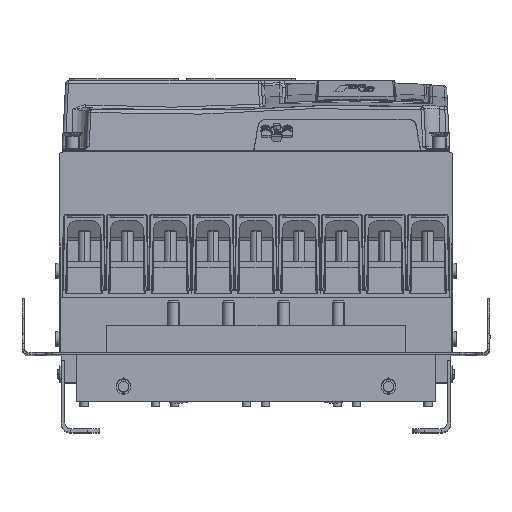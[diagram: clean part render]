
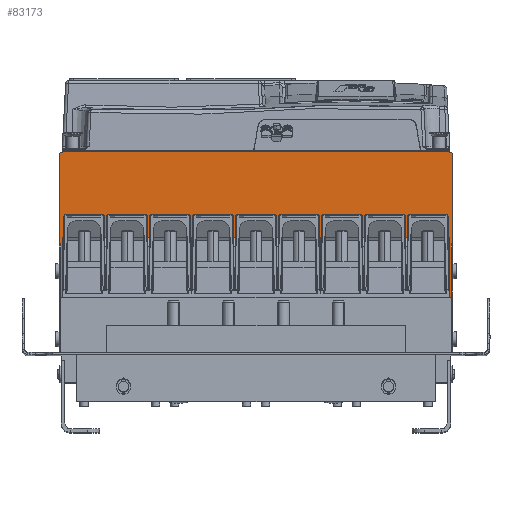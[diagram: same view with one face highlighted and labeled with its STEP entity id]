
A CAD part, top view. The second image highlights one B-rep face of the part: STEP entity #83173.
In plain terms, the highlighted planar face has unit normal (0, 0, 1).
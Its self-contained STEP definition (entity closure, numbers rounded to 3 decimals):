
#217 = VECTOR ( 'NONE', #83060, 1000. ) ;
#505 = LINE ( 'NONE', #99440, #68036 ) ;
#1715 = ORIENTED_EDGE ( 'NONE', *, *, #72236, .F. ) ;
#3507 = LINE ( 'NONE', #101281, #217 ) ;
#4724 = CARTESIAN_POINT ( 'NONE',  ( 165., -77., 453. ) ) ;
#4812 = DIRECTION ( 'NONE',  ( 0., 0., -1. ) ) ;
#10294 = LINE ( 'NONE', #11470, #10388 ) ;
#10388 = VECTOR ( 'NONE', #92756, 1000. ) ;
#10748 = CARTESIAN_POINT ( 'NONE',  ( 165., -3.5, 453. ) ) ;
#11470 = CARTESIAN_POINT ( 'NONE',  ( 163.5, 0., 453. ) ) ;
#13778 = VERTEX_POINT ( 'NONE', #67770 ) ;
#15083 = DIRECTION ( 'NONE',  ( 1., 0., 0. ) ) ;
#15181 = CIRCLE ( 'NONE', #54748, 3.5 ) ;
#15614 = VECTOR ( 'NONE', #15083, 1000. ) ;
#19297 = LINE ( 'NONE', #100583, #19322 ) ;
#19322 = VECTOR ( 'NONE', #108277, 1000. ) ;
#21877 = ORIENTED_EDGE ( 'NONE', *, *, #32257, .T. ) ;
#23498 = ORIENTED_EDGE ( 'NONE', *, *, #97616, .F. ) ;
#25645 = CARTESIAN_POINT ( 'NONE',  ( 0., 0., 453. ) ) ;
#27662 = EDGE_CURVE ( 'NONE', #88387, #114339, #10294, .T. ) ;
#30658 = CARTESIAN_POINT ( 'NONE',  ( -165., -3.5, 453. ) ) ;
#32015 = ORIENTED_EDGE ( 'NONE', *, *, #86972, .T. ) ;
#32019 = AXIS2_PLACEMENT_3D ( 'NONE', #95372, #40631, #76543 ) ;
#32257 = EDGE_CURVE ( 'NONE', #95922, #58013, #72630, .T. ) ;
#32514 = DIRECTION ( 'NONE',  ( 0., 1., 0. ) ) ;
#32798 = LINE ( 'NONE', #25645, #15614 ) ;
#32852 = DIRECTION ( 'NONE',  ( -1., 0., 0. ) ) ;
#35417 = DIRECTION ( 'NONE',  ( 0., 1., 0. ) ) ;
#40631 = DIRECTION ( 'NONE',  ( 0., 0., -1. ) ) ;
#41361 = CARTESIAN_POINT ( 'NONE',  ( 161.5, -3.5, 453. ) ) ;
#41695 = VERTEX_POINT ( 'NONE', #60964 ) ;
#41795 = FACE_OUTER_BOUND ( 'NONE', #110010, .T. ) ;
#44434 = DIRECTION ( 'NONE',  ( 1., 0., 0. ) ) ;
#46284 = EDGE_CURVE ( 'NONE', #110598, #70933, #3507, .T. ) ;
#47638 = EDGE_CURVE ( 'NONE', #110598, #104790, #15181, .T. ) ;
#48794 = CARTESIAN_POINT ( 'NONE',  ( 0., -167.9, 453. ) ) ;
#51561 = CARTESIAN_POINT ( 'NONE',  ( -165.001, -77., 453. ) ) ;
#54288 = VECTOR ( 'NONE', #44434, 1000. ) ;
#54748 = AXIS2_PLACEMENT_3D ( 'NONE', #71920, #66450, #35417 ) ;
#57996 = ORIENTED_EDGE ( 'NONE', *, *, #75745, .F. ) ;
#58013 = VERTEX_POINT ( 'NONE', #60445 ) ;
#60445 = CARTESIAN_POINT ( 'NONE',  ( 165., -3.5, 453. ) ) ;
#60964 = CARTESIAN_POINT ( 'NONE',  ( -163.5, -77., 453. ) ) ;
#66450 = DIRECTION ( 'NONE',  ( 0., 0., -1. ) ) ;
#67149 = PLANE ( 'NONE',  #32019 ) ;
#67770 = CARTESIAN_POINT ( 'NONE',  ( 161.5, 0., 453. ) ) ;
#68036 = VECTOR ( 'NONE', #90040, 1000. ) ;
#69266 = VERTEX_POINT ( 'NONE', #90872 ) ;
#70313 = ORIENTED_EDGE ( 'NONE', *, *, #47638, .F. ) ;
#70933 = VERTEX_POINT ( 'NONE', #96525 ) ;
#71920 = CARTESIAN_POINT ( 'NONE',  ( -161.5, -3.5, 453. ) ) ;
#72236 = EDGE_CURVE ( 'NONE', #95922, #88387, #505, .T. ) ;
#72630 = LINE ( 'NONE', #10748, #85502 ) ;
#75745 = EDGE_CURVE ( 'NONE', #13778, #58013, #109649, .T. ) ;
#76543 = DIRECTION ( 'NONE',  ( 0., 1., 0. ) ) ;
#81002 = CARTESIAN_POINT ( 'NONE',  ( -161.5, 0., 453. ) ) ;
#81135 = ORIENTED_EDGE ( 'NONE', *, *, #95121, .F. ) ;
#81614 = ORIENTED_EDGE ( 'NONE', *, *, #93860, .F. ) ;
#83060 = DIRECTION ( 'NONE',  ( 0., -1., 0. ) ) ;
#83173 = ADVANCED_FACE ( 'NONE', ( #41795 ), #67149, .F. ) ;
#85502 = VECTOR ( 'NONE', #92047, 1000. ) ;
#86972 = EDGE_CURVE ( 'NONE', #70933, #41695, #96263, .T. ) ;
#88387 = VERTEX_POINT ( 'NONE', #107106 ) ;
#90040 = DIRECTION ( 'NONE',  ( -1., 0., 0. ) ) ;
#90872 = CARTESIAN_POINT ( 'NONE',  ( -163.5, -167.9, 453. ) ) ;
#92047 = DIRECTION ( 'NONE',  ( 0., 1., 0. ) ) ;
#92756 = DIRECTION ( 'NONE',  ( 0., -1., 0. ) ) ;
#93860 = EDGE_CURVE ( 'NONE', #104790, #13778, #32798, .T. ) ;
#94092 = LINE ( 'NONE', #48794, #105921 ) ;
#94628 = AXIS2_PLACEMENT_3D ( 'NONE', #41361, #4812, #32514 ) ;
#95121 = EDGE_CURVE ( 'NONE', #114339, #69266, #94092, .T. ) ;
#95372 = CARTESIAN_POINT ( 'NONE',  ( 0., 0., 453. ) ) ;
#95922 = VERTEX_POINT ( 'NONE', #4724 ) ;
#96263 = LINE ( 'NONE', #51561, #54288 ) ;
#96525 = CARTESIAN_POINT ( 'NONE',  ( -165., -77., 453. ) ) ;
#97616 = EDGE_CURVE ( 'NONE', #69266, #41695, #19297, .T. ) ;
#99440 = CARTESIAN_POINT ( 'NONE',  ( 165.001, -77., 453. ) ) ;
#100583 = CARTESIAN_POINT ( 'NONE',  ( -163.5, 0., 453. ) ) ;
#101281 = CARTESIAN_POINT ( 'NONE',  ( -165., -3.5, 453. ) ) ;
#104790 = VERTEX_POINT ( 'NONE', #81002 ) ;
#105921 = VECTOR ( 'NONE', #32852, 1000. ) ;
#107080 = CARTESIAN_POINT ( 'NONE',  ( 163.5, -167.9, 453. ) ) ;
#107106 = CARTESIAN_POINT ( 'NONE',  ( 163.5, -77., 453. ) ) ;
#108277 = DIRECTION ( 'NONE',  ( 0., 1., 0. ) ) ;
#109649 = CIRCLE ( 'NONE', #94628, 3.5 ) ;
#110010 = EDGE_LOOP ( 'NONE', ( #70313, #113381, #32015, #23498, #81135, #114512, #1715, #21877, #57996, #81614 ) ) ;
#110598 = VERTEX_POINT ( 'NONE', #30658 ) ;
#113381 = ORIENTED_EDGE ( 'NONE', *, *, #46284, .T. ) ;
#114339 = VERTEX_POINT ( 'NONE', #107080 ) ;
#114512 = ORIENTED_EDGE ( 'NONE', *, *, #27662, .F. ) ;
